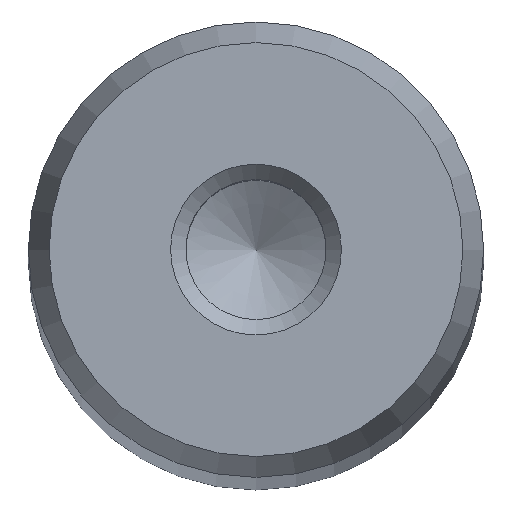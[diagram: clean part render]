
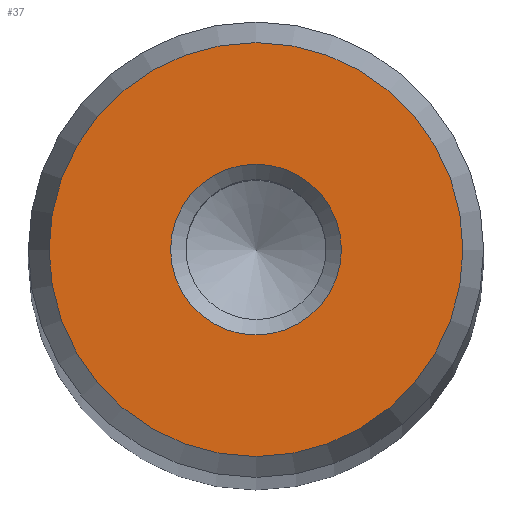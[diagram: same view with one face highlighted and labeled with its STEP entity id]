
A CAD part, top view. The second image highlights one B-rep face of the part: STEP entity #37.
In plain terms, the highlighted planar face has unit normal (0, 0, 1).
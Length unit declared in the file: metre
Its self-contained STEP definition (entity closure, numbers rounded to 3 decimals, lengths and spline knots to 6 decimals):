
#37 = ADVANCED_FACE( '', ( #80, #81 ), #82, .T. );
#80 = FACE_OUTER_BOUND( '', #139, .T. );
#81 = FACE_BOUND( '', #140, .T. );
#82 = PLANE( '', #141 );
#139 = EDGE_LOOP( '', ( #192 ) );
#140 = EDGE_LOOP( '', ( #193 ) );
#141 = AXIS2_PLACEMENT_3D( '', #194, #195, #196 );
#192 = ORIENTED_EDGE( '', *, *, #270, .T. );
#193 = ORIENTED_EDGE( '', *, *, #271, .T. );
#194 = CARTESIAN_POINT( '', ( 0., 0., 0.257 ) );
#195 = DIRECTION( '', ( 0., 0., 1. ) );
#196 = DIRECTION( '', ( 1., 0., 0. ) );
#270 = EDGE_CURVE( '', #297, #297, #298, .T. );
#271 = EDGE_CURVE( '', #299, #299, #300, .T. );
#297 = VERTEX_POINT( '', #334 );
#298 = CIRCLE( '', #335, 0.007272 );
#299 = VERTEX_POINT( '', #336 );
#300 = CIRCLE( '', #337, 0.003 );
#334 = CARTESIAN_POINT( '', ( 0.007272, 0., 0.257 ) );
#335 = AXIS2_PLACEMENT_3D( '', #370, #371, #372 );
#336 = CARTESIAN_POINT( '', ( 0.003, 0., 0.257 ) );
#337 = AXIS2_PLACEMENT_3D( '', #373, #374, #375 );
#370 = CARTESIAN_POINT( '', ( 0., 0., 0.257 ) );
#371 = DIRECTION( '', ( 0., 0., 1. ) );
#372 = DIRECTION( '', ( 1., 0., 0. ) );
#373 = CARTESIAN_POINT( '', ( 0., 0., 0.257 ) );
#374 = DIRECTION( '', ( 0., 0., -1. ) );
#375 = DIRECTION( '', ( 1., 0., 0. ) );
